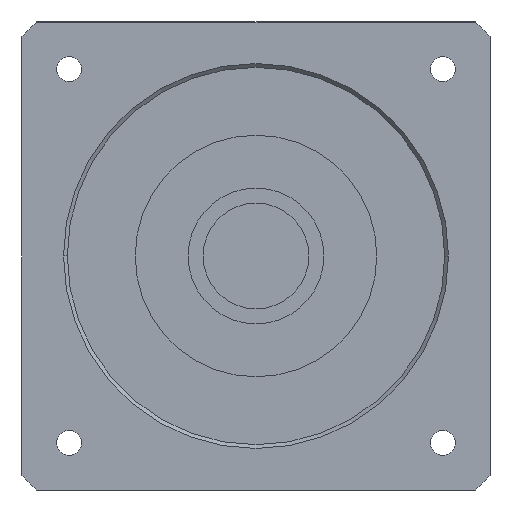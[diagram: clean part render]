
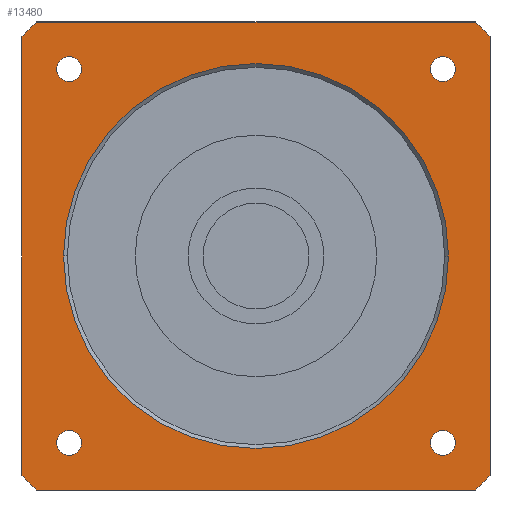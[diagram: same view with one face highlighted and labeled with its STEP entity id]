
A CAD part, left-side view. The second image highlights one B-rep face of the part: STEP entity #13480.
In plain terms, the highlighted planar face has unit normal (-1, 0, 0) as drawn and (0, 0, -1) by its records, which use the part's own axes.
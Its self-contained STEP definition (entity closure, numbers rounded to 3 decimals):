
#8680=CARTESIAN_POINT('',(24.749,26.399,-36.));
#8690=VERTEX_POINT('',#8680);
#8870=CARTESIAN_POINT('',(24.749,23.099,-36.));
#8880=VERTEX_POINT('',#8870);
#8910=CARTESIAN_POINT('',(24.749,24.749,-36.));
#8920=DIRECTION('',(0.,0.,-1.));
#8930=DIRECTION('',(1.,0.,0.));
#8940=AXIS2_PLACEMENT_3D('',#8910,#8920,#8930);
#8950=CIRCLE('',#8940,1.65);
#8960=CARTESIAN_POINT('',(26.399,24.749,-36.));
#8970=VERTEX_POINT('',#8960);
#8980=EDGE_CURVE('',#8970,#8880,#8950,.T.);
#9000=EDGE_CURVE('',#8690,#8970,#8950,.T.);
#9140=CARTESIAN_POINT('',(-24.749,26.399,-36.));
#9150=VERTEX_POINT('',#9140);
#9330=CARTESIAN_POINT('',(-24.749,23.099,-36.));
#9340=VERTEX_POINT('',#9330);
#9370=CARTESIAN_POINT('',(-24.749,24.749,-36.));
#9380=DIRECTION('',(0.,0.,-1.));
#9390=DIRECTION('',(1.,0.,0.));
#9400=AXIS2_PLACEMENT_3D('',#9370,#9380,#9390);
#9410=CIRCLE('',#9400,1.65);
#9420=CARTESIAN_POINT('',(-23.099,24.749,-36.));
#9430=VERTEX_POINT('',#9420);
#9440=EDGE_CURVE('',#9430,#9340,#9410,.T.);
#9460=EDGE_CURVE('',#9150,#9430,#9410,.T.);
#11860=CARTESIAN_POINT('',(25.5,0.,-36.));
#11870=VERTEX_POINT('',#11860);
#11900=CARTESIAN_POINT('',(0.,0.,
-36.));
#11910=DIRECTION('',(0.,0.,1.));
#11920=DIRECTION('',(0.,1.,0.));
#11930=AXIS2_PLACEMENT_3D('',#11900,#11910,#11920);
#11940=CIRCLE('',#11930,25.5);
#11950=CARTESIAN_POINT('',(0.,25.5,-36.));
#11960=VERTEX_POINT('',#11950);
#11970=EDGE_CURVE('',#11870,#11960,#11940,.T.);
#11990=CARTESIAN_POINT('',(-25.5,0.,-36.));
#12000=VERTEX_POINT('',#11990);
#12010=EDGE_CURVE('',#11960,#12000,#11940,.T.);
#12170=CARTESIAN_POINT('',(31.,-31.,-36.));
#12180=DIRECTION('',(0.,0.,1.));
#12190=DIRECTION('',(0.,1.,0.));
#12200=AXIS2_PLACEMENT_3D('',#12170,#12180,#12190);
#12210=PLANE('',#12200);
#12220=CARTESIAN_POINT('',(-24.749,-24.749,-36.));
#12230=DIRECTION('',(0.,0.,-1.));
#12240=DIRECTION('',(1.,0.,0.));
#12250=AXIS2_PLACEMENT_3D('',#12220,#12230,#12240);
#12260=CIRCLE('',#12250,1.65);
#12270=CARTESIAN_POINT('',(-23.099,-24.749,-36.));
#12280=VERTEX_POINT('',#12270);
#12290=CARTESIAN_POINT('',(-24.749,-26.399,-36.));
#12300=VERTEX_POINT('',#12290);
#12310=EDGE_CURVE('',#12280,#12300,#12260,.T.);
#12320=ORIENTED_EDGE('',*,*,#12310,.F.);
#12330=CARTESIAN_POINT('',(-24.749,-23.099,-36.));
#12340=VERTEX_POINT('',#12330);
#12350=EDGE_CURVE('',#12300,#12340,#12260,.T.);
#12360=ORIENTED_EDGE('',*,*,#12350,.F.);
#12370=EDGE_CURVE('',#12340,#12280,#12260,.T.);
#12380=ORIENTED_EDGE('',*,*,#12370,.F.);
#12390=EDGE_LOOP('',(#12380,#12360,#12320));
#12400=FACE_BOUND('',#12390,.T.);
#12410=CARTESIAN_POINT('',(24.749,-24.749,-36.));
#12420=DIRECTION('',(0.,0.,-1.));
#12430=DIRECTION('',(1.,0.,0.));
#12440=AXIS2_PLACEMENT_3D('',#12410,#12420,#12430);
#12450=CIRCLE('',#12440,1.65);
#12460=CARTESIAN_POINT('',(26.399,-24.749,-36.));
#12470=VERTEX_POINT('',#12460);
#12480=CARTESIAN_POINT('',(24.749,-26.399,-36.));
#12490=VERTEX_POINT('',#12480);
#12500=EDGE_CURVE('',#12470,#12490,#12450,.T.);
#12510=ORIENTED_EDGE('',*,*,#12500,.F.);
#12520=CARTESIAN_POINT('',(24.749,-23.099,-36.));
#12530=VERTEX_POINT('',#12520);
#12540=EDGE_CURVE('',#12490,#12530,#12450,.T.);
#12550=ORIENTED_EDGE('',*,*,#12540,.F.);
#12560=EDGE_CURVE('',#12530,#12470,#12450,.T.);
#12570=ORIENTED_EDGE('',*,*,#12560,.F.);
#12580=EDGE_LOOP('',(#12570,#12550,#12510));
#12590=FACE_BOUND('',#12580,.T.);
#12600=ORIENTED_EDGE('',*,*,#8980,.F.);
#12610=EDGE_CURVE('',#8880,#8690,#8950,.T.);
#12620=ORIENTED_EDGE('',*,*,#12610,.F.);
#12630=ORIENTED_EDGE('',*,*,#9000,.F.);
#12640=EDGE_LOOP('',(#12630,#12620,#12600));
#12650=FACE_BOUND('',#12640,.T.);
#12660=ORIENTED_EDGE('',*,*,#9440,.F.);
#12670=EDGE_CURVE('',#9340,#9150,#9410,.T.);
#12680=ORIENTED_EDGE('',*,*,#12670,.F.);
#12690=ORIENTED_EDGE('',*,*,#9460,.F.);
#12700=EDGE_LOOP('',(#12690,#12680,#12660));
#12710=FACE_BOUND('',#12700,.T.);
#12720=EDGE_CURVE('',#12000,#11870,#11940,.T.);
#12730=ORIENTED_EDGE('',*,*,#12720,.T.);
#12740=ORIENTED_EDGE('',*,*,#12010,.T.);
#12750=ORIENTED_EDGE('',*,*,#11970,.T.);
#12760=EDGE_LOOP('',(#12750,#12740,#12730));
#12770=FACE_BOUND('',#12760,.T.);
#12780=CARTESIAN_POINT('',(0.,0.,
-36.));
#12790=DIRECTION('',(0.,0.,1.));
#12800=DIRECTION('',(0.,1.,0.));
#12810=AXIS2_PLACEMENT_3D('',#12780,#12790,#12800);
#12820=CIRCLE('',#12810,42.5);
#12830=CARTESIAN_POINT('',(-29.073,31.,-36.));
#12840=VERTEX_POINT('',#12830);
#12850=CARTESIAN_POINT('',(-31.,29.073,-36.));
#12860=VERTEX_POINT('',#12850);
#12870=EDGE_CURVE('',#12840,#12860,#12820,.T.);
#12880=ORIENTED_EDGE('',*,*,#12870,.F.);
#12890=CARTESIAN_POINT('',(-31.,31.,-36.));
#12900=DIRECTION('',(0.,-1.,0.));
#12910=VECTOR('',#12900,1000.);
#12920=LINE('',#12890,#12910);
#12930=CARTESIAN_POINT('',(-31.,-29.073,-36.));
#12940=VERTEX_POINT('',#12930);
#12950=EDGE_CURVE('',#12860,#12940,#12920,.T.);
#12960=ORIENTED_EDGE('',*,*,#12950,.F.);
#12970=CARTESIAN_POINT('',(0.,0.,
-36.));
#12980=DIRECTION('',(0.,0.,1.));
#12990=DIRECTION('',(0.,1.,0.));
#13000=AXIS2_PLACEMENT_3D('',#12970,#12980,#12990);
#13010=CIRCLE('',#13000,42.5);
#13020=CARTESIAN_POINT('',(-29.073,-31.,-36.));
#13030=VERTEX_POINT('',#13020);
#13040=EDGE_CURVE('',#12940,#13030,#13010,.T.);
#13050=ORIENTED_EDGE('',*,*,#13040,.F.);
#13060=CARTESIAN_POINT('',(-31.,-31.,-36.));
#13070=DIRECTION('',(1.,0.,0.));
#13080=VECTOR('',#13070,1000.);
#13090=LINE('',#13060,#13080);
#13100=CARTESIAN_POINT('',(29.073,-31.,-36.));
#13110=VERTEX_POINT('',#13100);
#13120=EDGE_CURVE('',#13030,#13110,#13090,.T.);
#13130=ORIENTED_EDGE('',*,*,#13120,.F.);
#13140=CARTESIAN_POINT('',(0.,0.,
-36.));
#13150=DIRECTION('',(0.,0.,1.));
#13160=DIRECTION('',(0.,1.,0.));
#13170=AXIS2_PLACEMENT_3D('',#13140,#13150,#13160);
#13180=CIRCLE('',#13170,42.5);
#13190=CARTESIAN_POINT('',(31.,-29.073,-36.));
#13200=VERTEX_POINT('',#13190);
#13210=EDGE_CURVE('',#13110,#13200,#13180,.T.);
#13220=ORIENTED_EDGE('',*,*,#13210,.F.);
#13230=CARTESIAN_POINT('',(31.,-31.,-36.));
#13240=DIRECTION('',(0.,1.,0.));
#13250=VECTOR('',#13240,1000.);
#13260=LINE('',#13230,#13250);
#13270=CARTESIAN_POINT('',(31.,29.073,-36.));
#13280=VERTEX_POINT('',#13270);
#13290=EDGE_CURVE('',#13200,#13280,#13260,.T.);
#13300=ORIENTED_EDGE('',*,*,#13290,.F.);
#13310=CARTESIAN_POINT('',(0.,0.,
-36.));
#13320=DIRECTION('',(0.,0.,1.));
#13330=DIRECTION('',(1.,0.,0.));
#13340=AXIS2_PLACEMENT_3D('',#13310,#13320,#13330);
#13350=CIRCLE('',#13340,42.5);
#13360=CARTESIAN_POINT('',(29.073,31.,-36.));
#13370=VERTEX_POINT('',#13360);
#13380=EDGE_CURVE('',#13280,#13370,#13350,.T.);
#13390=ORIENTED_EDGE('',*,*,#13380,.F.);
#13400=CARTESIAN_POINT('',(31.,31.,-36.));
#13410=DIRECTION('',(-1.,0.,0.));
#13420=VECTOR('',#13410,1000.);
#13430=LINE('',#13400,#13420);
#13440=EDGE_CURVE('',#13370,#12840,#13430,.T.);
#13450=ORIENTED_EDGE('',*,*,#13440,.F.);
#13460=EDGE_LOOP('',(#13450,#13390,#13300,#13220,#13130,#13050,#12960,
#12880));
#13470=FACE_OUTER_BOUND('',#13460,.T.);
#13480=ADVANCED_FACE('',(#12400,#12590,#12650,#12710,#12770,#13470),
#12210,.F.);
